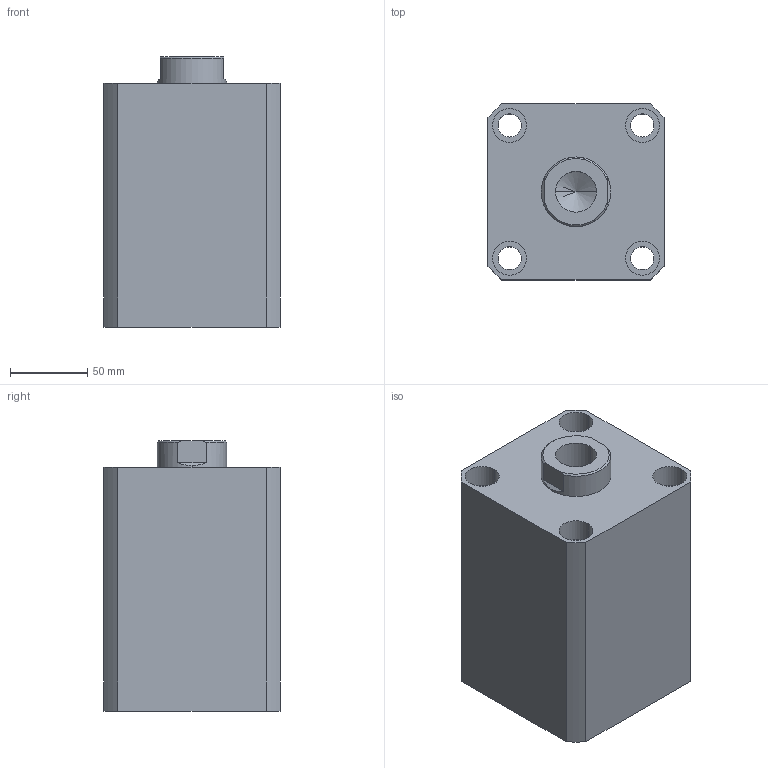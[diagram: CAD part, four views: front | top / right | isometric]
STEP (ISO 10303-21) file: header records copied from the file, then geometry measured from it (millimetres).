
FILE_DESCRIPTION (( 'STEP AP203' ), '1' );
FILE_NAME ('HTB-SDMB80-80N.STEP', '2019-10-09T06:11:42', ( '微软用户' ), ( '微软中国' ), 'SwSTEP 2.0', 'SolidWorks 2012', '' );
FILE_SCHEMA (( 'CONFIG_CONTROL_DESIGN' ));
Length unit declared in the file: millimetre
Products named in the file (3): HTB-SDMB80-80掛极; HTB-SDMB80-80N活塞杆; HTB-SDMB80-80N
Assembly tree (2 placements, depth 2):
  HTB-SDMB80-80N
    HTB-SDMB80-80掛极
    HTB-SDMB80-80N活塞杆
Bounding box: 114 x 114 x 175 mm (x, y, z)
Volume: 1620660.8 mm3; surface area: 204387.8 mm2
Topology: 2 solids, 2 shells, 137 faces, 331 edges, 217 vertices
Faces by surface type: plane 65, cylinder 46, bspline 16, torus 6, cone 4
Entity records: 5070 total; most frequent: CARTESIAN_POINT 1576, ORIENTED_EDGE 658, DIRECTION 647, EDGE_CURVE 329, AXIS2_PLACEMENT_3D 232, VERTEX_POINT 217, LINE 183, VECTOR 183
